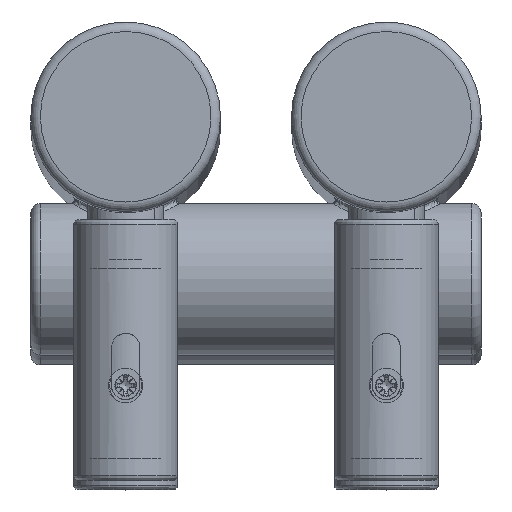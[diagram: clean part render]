
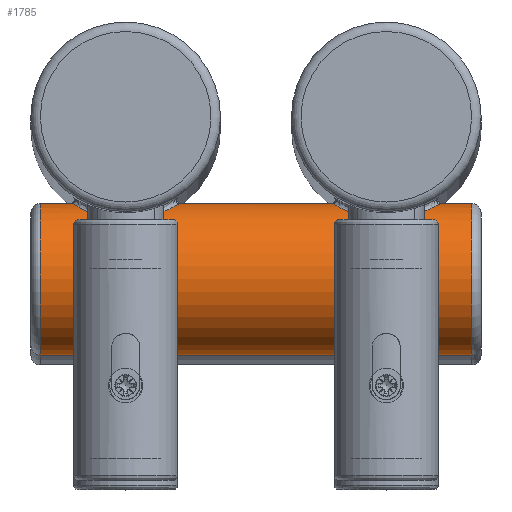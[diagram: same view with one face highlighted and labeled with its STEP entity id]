
A CAD part, top view. The second image highlights one B-rep face of the part: STEP entity #1785.
In plain terms, the highlighted cylindrical face has radius 16 mm (diameter 32 mm), a full revolution.
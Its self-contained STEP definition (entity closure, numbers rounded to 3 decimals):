
#156=FACE_BOUND('',#472,.T.);
#157=FACE_BOUND('',#473,.T.);
#175=LINE('',#3516,#246);
#246=VECTOR('',#2233,16.);
#317=CYLINDRICAL_SURFACE('',#1954,16.);
#348=FACE_OUTER_BOUND('',#471,.T.);
#471=EDGE_LOOP('',(#1265,#1266,#1267,#1268));
#472=EDGE_LOOP('',(#1269));
#473=EDGE_LOOP('',(#1270));
#604=B_SPLINE_CURVE_WITH_KNOTS('',3,(#3491,#3492,#3493,#3494,#3495,#3496,
#3497,#3498,#3499,#3500,#3501,#3502,#3503,#3504,#3505,#3506,#3507,#3508,
#3509,#3510,#3511),.UNSPECIFIED.,.T.,.F.,(4,1,1,1,1,1,1,1,1,1,1,1,1,1,1,
1,1,1,4),(0.,0.367,0.733,0.916,1.1,
1.466,1.711,1.955,2.199,2.444,
2.688,2.933,3.177,3.421,3.666,
3.91,4.399,4.765,5.132),
 .UNSPECIFIED.);
#605=B_SPLINE_CURVE_WITH_KNOTS('',3,(#3519,#3520,#3521,#3522,#3523,#3524,
#3525,#3526,#3527,#3528,#3529,#3530,#3531,#3532,#3533,#3534,#3535,#3536,
#3537,#3538,#3539),.UNSPECIFIED.,.T.,.F.,(4,1,1,1,1,1,1,1,1,1,1,1,1,1,1,
1,1,1,4),(0.,0.367,0.733,0.916,1.1,
1.466,1.711,1.955,2.199,2.444,
2.688,2.933,3.177,3.421,3.666,
3.91,4.399,4.765,5.132),
 .UNSPECIFIED.);
#650=CIRCLE('',#1955,16.);
#651=CIRCLE('',#1956,16.);
#788=VERTEX_POINT('',#3489);
#789=VERTEX_POINT('',#3513);
#790=VERTEX_POINT('',#3515);
#791=VERTEX_POINT('',#3518);
#980=EDGE_CURVE('',#788,#788,#604,.T.);
#981=EDGE_CURVE('',#789,#789,#650,.T.);
#982=EDGE_CURVE('',#789,#790,#175,.T.);
#983=EDGE_CURVE('',#790,#790,#651,.T.);
#984=EDGE_CURVE('',#791,#791,#605,.T.);
#1265=ORIENTED_EDGE('',*,*,#981,.F.);
#1266=ORIENTED_EDGE('',*,*,#982,.T.);
#1267=ORIENTED_EDGE('',*,*,#983,.F.);
#1268=ORIENTED_EDGE('',*,*,#982,.F.);
#1269=ORIENTED_EDGE('',*,*,#984,.F.);
#1270=ORIENTED_EDGE('',*,*,#980,.F.);
#1785=ADVANCED_FACE('',(#348,#156,#157),#317,.T.);
#1954=AXIS2_PLACEMENT_3D('',#3512,#2229,#2230);
#1955=AXIS2_PLACEMENT_3D('',#3514,#2231,#2232);
#1956=AXIS2_PLACEMENT_3D('',#3517,#2234,#2235);
#2229=DIRECTION('center_axis',(-1.,0.,0.));
#2230=DIRECTION('ref_axis',(0.,0.,1.));
#2231=DIRECTION('center_axis',(-1.,0.,0.));
#2232=DIRECTION('ref_axis',(0.,0.,1.));
#2233=DIRECTION('',(1.,0.,0.));
#2234=DIRECTION('center_axis',(1.,0.,0.));
#2235=DIRECTION('ref_axis',(0.,0.,1.));
#3489=CARTESIAN_POINT('',(-55.,-21.257,1254.676));
#3491=CARTESIAN_POINT('Ctrl Pts',(-55.,-21.257,1254.676));
#3492=CARTESIAN_POINT('Ctrl Pts',(-53.333,-21.257,1254.676));
#3493=CARTESIAN_POINT('Ctrl Pts',(-49.992,-20.858,1254.186));
#3494=CARTESIAN_POINT('Ctrl Pts',(-46.526,-19.582,1252.138));
#3495=CARTESIAN_POINT('Ctrl Pts',(-44.675,-18.63,1249.615));
#3496=CARTESIAN_POINT('Ctrl Pts',(-43.539,-17.949,1246.659));
#3497=CARTESIAN_POINT('Ctrl Pts',(-43.538,-17.947,1243.067));
#3498=CARTESIAN_POINT('Ctrl Pts',(-45.013,-18.833,1239.662));
#3499=CARTESIAN_POINT('Ctrl Pts',(-47.203,-19.86,1237.415));
#3500=CARTESIAN_POINT('Ctrl Pts',(-50.072,-20.768,1235.978));
#3501=CARTESIAN_POINT('Ctrl Pts',(-53.318,-21.278,1235.296));
#3502=CARTESIAN_POINT('Ctrl Pts',(-56.682,-21.279,1235.296));
#3503=CARTESIAN_POINT('Ctrl Pts',(-59.929,-20.768,1235.978));
#3504=CARTESIAN_POINT('Ctrl Pts',(-62.797,-19.862,1237.416));
#3505=CARTESIAN_POINT('Ctrl Pts',(-64.989,-18.829,1239.664));
#3506=CARTESIAN_POINT('Ctrl Pts',(-66.247,-18.084,1242.578));
#3507=CARTESIAN_POINT('Ctrl Pts',(-66.602,-17.835,1246.907));
#3508=CARTESIAN_POINT('Ctrl Pts',(-64.645,-19.134,1251.468));
#3509=CARTESIAN_POINT('Ctrl Pts',(-59.999,-20.872,1254.179));
#3510=CARTESIAN_POINT('Ctrl Pts',(-56.667,-21.257,1254.676));
#3511=CARTESIAN_POINT('Ctrl Pts',(-55.,-21.257,1254.676));
#3512=CARTESIAN_POINT('Origin',(20.,-34.,1245.));
#3513=CARTESIAN_POINT('',(-73.,-34.,1229.));
#3514=CARTESIAN_POINT('Origin',(-73.,-34.,1245.));
#3515=CARTESIAN_POINT('',(18.,-34.,1229.));
#3516=CARTESIAN_POINT('',(20.,-34.,1229.));
#3517=CARTESIAN_POINT('Origin',(18.,-34.,1245.));
#3518=CARTESIAN_POINT('',(0.,-21.257,1254.676));
#3519=CARTESIAN_POINT('Ctrl Pts',(0.,-21.257,
1254.676));
#3520=CARTESIAN_POINT('Ctrl Pts',(1.667,-21.257,1254.676));
#3521=CARTESIAN_POINT('Ctrl Pts',(5.008,-20.858,1254.186));
#3522=CARTESIAN_POINT('Ctrl Pts',(8.474,-19.582,1252.138));
#3523=CARTESIAN_POINT('Ctrl Pts',(10.325,-18.63,1249.615));
#3524=CARTESIAN_POINT('Ctrl Pts',(11.461,-17.949,1246.659));
#3525=CARTESIAN_POINT('Ctrl Pts',(11.462,-17.947,1243.067));
#3526=CARTESIAN_POINT('Ctrl Pts',(9.987,-18.833,1239.662));
#3527=CARTESIAN_POINT('Ctrl Pts',(7.797,-19.86,1237.415));
#3528=CARTESIAN_POINT('Ctrl Pts',(4.928,-20.768,1235.978));
#3529=CARTESIAN_POINT('Ctrl Pts',(1.682,-21.278,1235.296));
#3530=CARTESIAN_POINT('Ctrl Pts',(-1.682,-21.279,1235.296));
#3531=CARTESIAN_POINT('Ctrl Pts',(-4.929,-20.768,1235.978));
#3532=CARTESIAN_POINT('Ctrl Pts',(-7.797,-19.862,1237.415));
#3533=CARTESIAN_POINT('Ctrl Pts',(-9.989,-18.829,1239.664));
#3534=CARTESIAN_POINT('Ctrl Pts',(-11.247,-18.084,1242.578));
#3535=CARTESIAN_POINT('Ctrl Pts',(-11.602,-17.835,1246.907));
#3536=CARTESIAN_POINT('Ctrl Pts',(-9.645,-19.134,1251.468));
#3537=CARTESIAN_POINT('Ctrl Pts',(-4.999,-20.872,1254.179));
#3538=CARTESIAN_POINT('Ctrl Pts',(-1.667,-21.257,1254.676));
#3539=CARTESIAN_POINT('Ctrl Pts',(0.,-21.257,
1254.676));
